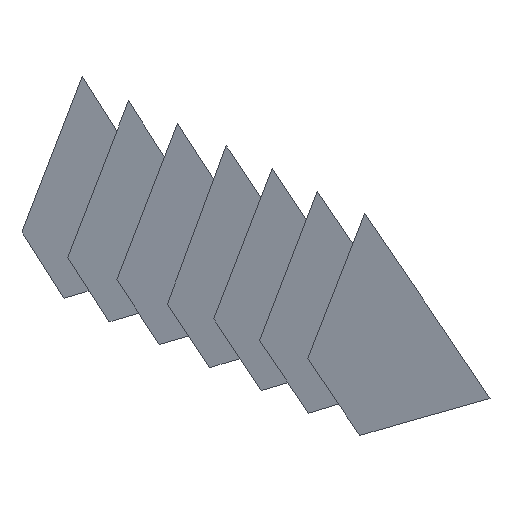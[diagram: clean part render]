
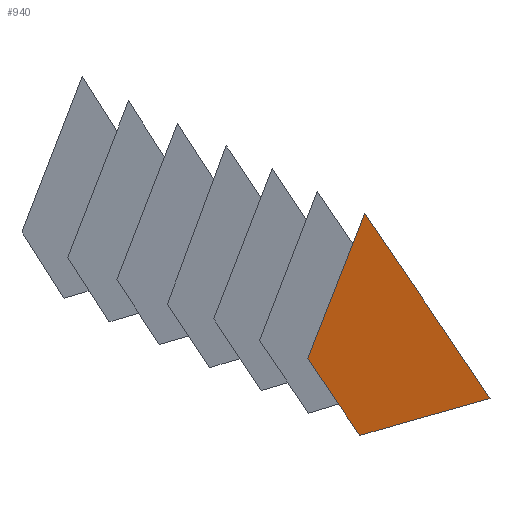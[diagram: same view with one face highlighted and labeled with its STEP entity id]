
A CAD part, left-side view. The second image highlights one B-rep face of the part: STEP entity #940.
In plain terms, the highlighted free-form (B-spline) face has degree [1, 1] with [2, 2] control points.
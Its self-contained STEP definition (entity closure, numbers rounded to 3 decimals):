
#940 = ADVANCED_FACE('',(#941),#954,.T.);
#941 = FACE_BOUND('',#942,.T.);
#942 = EDGE_LOOP('',(#943,#964,#978,#992,#1006,#1020,#1034,#1048,#1062)
  );
#943 = ORIENTED_EDGE('',*,*,#944,.T.);
#944 = EDGE_CURVE('',#945,#947,#949,.T.);
#945 = VERTEX_POINT('',#946);
#946 = CARTESIAN_POINT('',(1313.962,-1819.681,
    1299.515));
#947 = VERTEX_POINT('',#948);
#948 = CARTESIAN_POINT('',(1317.24,-1822.243,
    1295.739));
#949 = SURFACE_CURVE('',#950,(#953),.PCURVE_S1.);
#950 = B_SPLINE_CURVE_WITH_KNOTS('',1,(#951,#952),.UNSPECIFIED.,.F.,.F.,
  (2,2),(0.,5.618),.PIECEWISE_BEZIER_KNOTS.);
#951 = CARTESIAN_POINT('',(1313.962,-1819.681,
    1299.515));
#952 = CARTESIAN_POINT('',(1317.24,-1822.243,
    1295.739));
#953 = PCURVE('',#954,#959);
#954 = B_SPLINE_SURFACE_WITH_KNOTS('',1,1,(
    (#955,#956)
    ,(#957,#958
    )),.UNSPECIFIED.,.F.,.F.,.F.,(2,2),(2,2),(-3.38,
    5.258),(-3.688,4.169),
  .PIECEWISE_BEZIER_KNOTS.);
#955 = CARTESIAN_POINT('',(1315.757,-1817.786,
    1290.813));
#956 = CARTESIAN_POINT('',(1319.795,-1824.231,
    1292.782));
#957 = CARTESIAN_POINT('',(1312.516,-1817.373,
    1298.809));
#958 = CARTESIAN_POINT('',(1316.553,-1823.818,
    1300.779));
#959 = DEFINITIONAL_REPRESENTATION('',(#960),#963);
#960 = B_SPLINE_CURVE_WITH_KNOTS('',1,(#961,#962),.UNSPECIFIED.,.F.,.F.,
  (2,2),(0.,5.618),.PIECEWISE_BEZIER_KNOTS.);
#961 = CARTESIAN_POINT('',(5.258,-0.874));
#962 = CARTESIAN_POINT('',(0.411,1.966));
#963 = ( GEOMETRIC_REPRESENTATION_CONTEXT(2) 
PARAMETRIC_REPRESENTATION_CONTEXT() REPRESENTATION_CONTEXT('2D SPACE',''
  ) );
#964 = ORIENTED_EDGE('',*,*,#965,.T.);
#965 = EDGE_CURVE('',#947,#966,#968,.T.);
#966 = VERTEX_POINT('',#967);
#967 = CARTESIAN_POINT('',(1319.795,-1824.231,
    1292.782));
#968 = SURFACE_CURVE('',#969,(#972),.PCURVE_S1.);
#969 = B_SPLINE_CURVE_WITH_KNOTS('',1,(#970,#971),.UNSPECIFIED.,.F.,.F.,
  (2,2),(0.,4.384),.PIECEWISE_BEZIER_KNOTS.);
#970 = CARTESIAN_POINT('',(1317.24,-1822.243,
    1295.739));
#971 = CARTESIAN_POINT('',(1319.795,-1824.231,
    1292.782));
#972 = PCURVE('',#954,#973);
#973 = DEFINITIONAL_REPRESENTATION('',(#974),#977);
#974 = B_SPLINE_CURVE_WITH_KNOTS('',1,(#975,#976),.UNSPECIFIED.,.F.,.F.,
  (2,2),(0.,4.384),.PIECEWISE_BEZIER_KNOTS.);
#975 = CARTESIAN_POINT('',(0.411,1.966));
#976 = CARTESIAN_POINT('',(-3.38,4.169));
#977 = ( GEOMETRIC_REPRESENTATION_CONTEXT(2) 
PARAMETRIC_REPRESENTATION_CONTEXT() REPRESENTATION_CONTEXT('2D SPACE',''
  ) );
#978 = ORIENTED_EDGE('',*,*,#979,.T.);
#979 = EDGE_CURVE('',#966,#980,#982,.T.);
#980 = VERTEX_POINT('',#981);
#981 = CARTESIAN_POINT('',(1318.902,-1822.829,
    1292.391));
#982 = SURFACE_CURVE('',#983,(#986),.PCURVE_S1.);
#983 = B_SPLINE_CURVE_WITH_KNOTS('',1,(#984,#985),.UNSPECIFIED.,.F.,.F.,
  (2,2),(0.,1.708),.PIECEWISE_BEZIER_KNOTS.);
#984 = CARTESIAN_POINT('',(1319.795,-1824.231,
    1292.782));
#985 = CARTESIAN_POINT('',(1318.902,-1822.829,
    1292.391));
#986 = PCURVE('',#954,#987);
#987 = DEFINITIONAL_REPRESENTATION('',(#988),#991);
#988 = B_SPLINE_CURVE_WITH_KNOTS('',1,(#989,#990),.UNSPECIFIED.,.F.,.F.,
  (2,2),(0.,1.708),.PIECEWISE_BEZIER_KNOTS.);
#989 = CARTESIAN_POINT('',(-3.38,4.169));
#990 = CARTESIAN_POINT('',(-3.34,2.461));
#991 = ( GEOMETRIC_REPRESENTATION_CONTEXT(2) 
PARAMETRIC_REPRESENTATION_CONTEXT() REPRESENTATION_CONTEXT('2D SPACE',''
  ) );
#992 = ORIENTED_EDGE('',*,*,#993,.T.);
#993 = EDGE_CURVE('',#980,#994,#996,.T.);
#994 = VERTEX_POINT('',#995);
#995 = CARTESIAN_POINT('',(1317.858,-1821.186,
    1291.93));
#996 = SURFACE_CURVE('',#997,(#1000),.PCURVE_S1.);
#997 = B_SPLINE_CURVE_WITH_KNOTS('',1,(#998,#999),.UNSPECIFIED.,.F.,.F.,
  (2,2),(0.,2.),.PIECEWISE_BEZIER_KNOTS.);
#998 = CARTESIAN_POINT('',(1318.902,-1822.829,
    1292.391));
#999 = CARTESIAN_POINT('',(1317.858,-1821.186,
    1291.93));
#1000 = PCURVE('',#954,#1001);
#1001 = DEFINITIONAL_REPRESENTATION('',(#1002),#1005);
#1002 = B_SPLINE_CURVE_WITH_KNOTS('',1,(#1003,#1004),.UNSPECIFIED.,.F.,
  .F.,(2,2),(0.,2.),.PIECEWISE_BEZIER_KNOTS.);
#1003 = CARTESIAN_POINT('',(-3.34,2.461));
#1004 = CARTESIAN_POINT('',(-3.297,0.461));
#1005 = ( GEOMETRIC_REPRESENTATION_CONTEXT(2) 
PARAMETRIC_REPRESENTATION_CONTEXT() REPRESENTATION_CONTEXT('2D SPACE',''
  ) );
#1006 = ORIENTED_EDGE('',*,*,#1007,.T.);
#1007 = EDGE_CURVE('',#994,#1008,#1010,.T.);
#1008 = VERTEX_POINT('',#1009);
#1009 = CARTESIAN_POINT('',(1316.821,-1819.544,
    1291.452));
#1010 = SURFACE_CURVE('',#1011,(#1014),.PCURVE_S1.);
#1011 = B_SPLINE_CURVE_WITH_KNOTS('',1,(#1012,#1013),.UNSPECIFIED.,.F.,
  .F.,(2,2),(0.,2.),.PIECEWISE_BEZIER_KNOTS.);
#1012 = CARTESIAN_POINT('',(1317.858,-1821.186,
    1291.93));
#1013 = CARTESIAN_POINT('',(1316.821,-1819.544,
    1291.452));
#1014 = PCURVE('',#954,#1015);
#1015 = DEFINITIONAL_REPRESENTATION('',(#1016),#1019);
#1016 = B_SPLINE_CURVE_WITH_KNOTS('',1,(#1017,#1018),.UNSPECIFIED.,.F.,
  .F.,(2,2),(0.,2.),.PIECEWISE_BEZIER_KNOTS.);
#1017 = CARTESIAN_POINT('',(-3.297,0.461));
#1018 = CARTESIAN_POINT('',(-3.272,-1.539));
#1019 = ( GEOMETRIC_REPRESENTATION_CONTEXT(2) 
PARAMETRIC_REPRESENTATION_CONTEXT() REPRESENTATION_CONTEXT('2D SPACE',''
  ) );
#1020 = ORIENTED_EDGE('',*,*,#1021,.T.);
#1021 = EDGE_CURVE('',#1008,#1022,#1024,.T.);
#1022 = VERTEX_POINT('',#1023);
#1023 = CARTESIAN_POINT('',(1316.792,-1819.498,
    1291.438));
#1024 = SURFACE_CURVE('',#1025,(#1028),.PCURVE_S1.);
#1025 = B_SPLINE_CURVE_WITH_KNOTS('',1,(#1026,#1027),.UNSPECIFIED.,.F.,
  .F.,(2,2),(0.,0.055),.PIECEWISE_BEZIER_KNOTS.);
#1026 = CARTESIAN_POINT('',(1316.821,-1819.544,
    1291.452));
#1027 = CARTESIAN_POINT('',(1316.792,-1819.498,
    1291.438));
#1028 = PCURVE('',#954,#1029);
#1029 = DEFINITIONAL_REPRESENTATION('',(#1030),#1033);
#1030 = B_SPLINE_CURVE_WITH_KNOTS('',1,(#1031,#1032),.UNSPECIFIED.,.F.,
  .F.,(2,2),(0.,0.055),.PIECEWISE_BEZIER_KNOTS.);
#1031 = CARTESIAN_POINT('',(-3.272,-1.539));
#1032 = CARTESIAN_POINT('',(-3.271,-1.594));
#1033 = ( GEOMETRIC_REPRESENTATION_CONTEXT(2) 
PARAMETRIC_REPRESENTATION_CONTEXT() REPRESENTATION_CONTEXT('2D SPACE',''
  ) );
#1034 = ORIENTED_EDGE('',*,*,#1035,.T.);
#1035 = EDGE_CURVE('',#1022,#1036,#1038,.T.);
#1036 = VERTEX_POINT('',#1037);
#1037 = CARTESIAN_POINT('',(1315.985,-1818.869,
    1292.373));
#1038 = SURFACE_CURVE('',#1039,(#1042),.PCURVE_S1.);
#1039 = B_SPLINE_CURVE_WITH_KNOTS('',1,(#1040,#1041),.UNSPECIFIED.,.F.,
  .F.,(2,2),(0.,1.386),.PIECEWISE_BEZIER_KNOTS.);
#1040 = CARTESIAN_POINT('',(1316.792,-1819.498,
    1291.438));
#1041 = CARTESIAN_POINT('',(1315.985,-1818.869,
    1292.373));
#1042 = PCURVE('',#954,#1043);
#1043 = DEFINITIONAL_REPRESENTATION('',(#1044),#1047);
#1044 = B_SPLINE_CURVE_WITH_KNOTS('',1,(#1045,#1046),.UNSPECIFIED.,.F.,
  .F.,(2,2),(0.,1.386),.PIECEWISE_BEZIER_KNOTS.);
#1045 = CARTESIAN_POINT('',(-3.271,-1.594));
#1046 = CARTESIAN_POINT('',(-2.073,-2.291));
#1047 = ( GEOMETRIC_REPRESENTATION_CONTEXT(2) 
PARAMETRIC_REPRESENTATION_CONTEXT() REPRESENTATION_CONTEXT('2D SPACE',''
  ) );
#1048 = ORIENTED_EDGE('',*,*,#1049,.T.);
#1049 = EDGE_CURVE('',#1036,#1050,#1052,.T.);
#1050 = VERTEX_POINT('',#1051);
#1051 = CARTESIAN_POINT('',(1314.372,-1817.609,
    1294.231));
#1052 = SURFACE_CURVE('',#1053,(#1056),.PCURVE_S1.);
#1053 = B_SPLINE_CURVE_WITH_KNOTS('',1,(#1054,#1055),.UNSPECIFIED.,.F.,
  .F.,(2,2),(0.,2.764),.PIECEWISE_BEZIER_KNOTS.);
#1054 = CARTESIAN_POINT('',(1315.985,-1818.869,
    1292.373));
#1055 = CARTESIAN_POINT('',(1314.372,-1817.609,
    1294.231));
#1056 = PCURVE('',#954,#1057);
#1057 = DEFINITIONAL_REPRESENTATION('',(#1058),#1061);
#1058 = B_SPLINE_CURVE_WITH_KNOTS('',1,(#1059,#1060),.UNSPECIFIED.,.F.,
  .F.,(2,2),(0.,2.764),.PIECEWISE_BEZIER_KNOTS.);
#1059 = CARTESIAN_POINT('',(-2.073,-2.291));
#1060 = CARTESIAN_POINT('',(0.312,-3.688));
#1061 = ( GEOMETRIC_REPRESENTATION_CONTEXT(2) 
PARAMETRIC_REPRESENTATION_CONTEXT() REPRESENTATION_CONTEXT('2D SPACE',''
  ) );
#1062 = ORIENTED_EDGE('',*,*,#1063,.T.);
#1063 = EDGE_CURVE('',#1050,#945,#1064,.T.);
#1064 = SURFACE_CURVE('',#1065,(#1068),.PCURVE_S1.);
#1065 = B_SPLINE_CURVE_WITH_KNOTS('',1,(#1066,#1067),.UNSPECIFIED.,.F.,
  .F.,(2,2),(0.,5.691),.PIECEWISE_BEZIER_KNOTS.);
#1066 = CARTESIAN_POINT('',(1314.372,-1817.609,
    1294.231));
#1067 = CARTESIAN_POINT('',(1313.962,-1819.681,
    1299.515));
#1068 = PCURVE('',#954,#1069);
#1069 = DEFINITIONAL_REPRESENTATION('',(#1070),#1073);
#1070 = B_SPLINE_CURVE_WITH_KNOTS('',1,(#1071,#1072),.UNSPECIFIED.,.F.,
  .F.,(2,2),(0.,5.691),.PIECEWISE_BEZIER_KNOTS.);
#1071 = CARTESIAN_POINT('',(0.312,-3.688));
#1072 = CARTESIAN_POINT('',(5.258,-0.874));
#1073 = ( GEOMETRIC_REPRESENTATION_CONTEXT(2) 
PARAMETRIC_REPRESENTATION_CONTEXT() REPRESENTATION_CONTEXT('2D SPACE',''
  ) );
